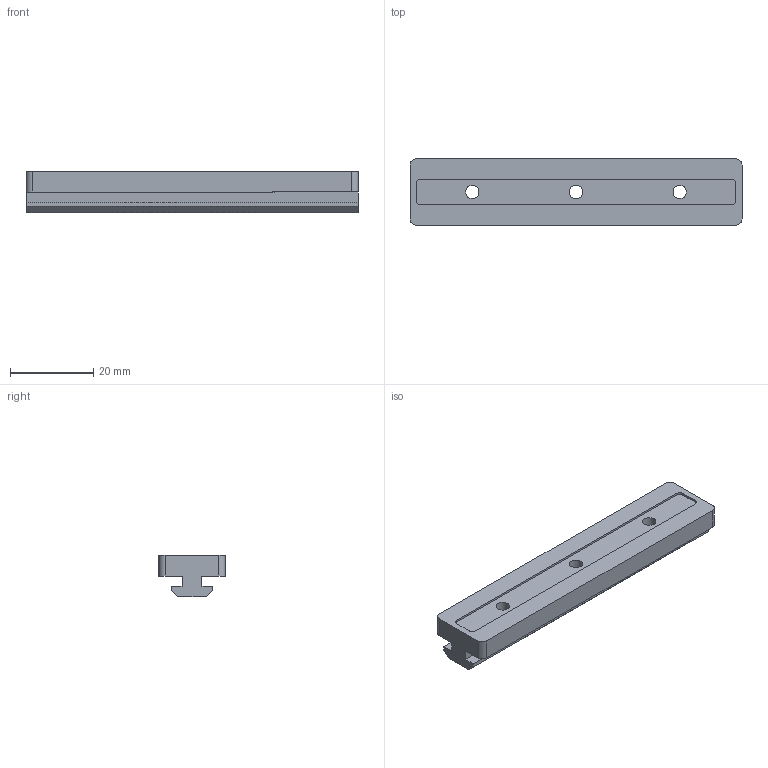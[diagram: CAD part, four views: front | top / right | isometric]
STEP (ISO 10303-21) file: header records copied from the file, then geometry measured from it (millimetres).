
FILE_DESCRIPTION(/* description */ ('www.motedis.com/part/SLDF-S5I','CAx-IF Rec.Pracs.---Representation and Presentation of Product Manufacturing Information (PMI)---4.0---2014-10-13'),/* implementation_level */ '2;1');
FILE_NAME(/* name */ 'Motedis SLDF-S5I.stp',/* time_stamp */ '2026-04-01T11:48:28+02:00',/* author */ ('Motedis'),/* organization */ ('Motedis GmbH'),/* preprocessor_version */ 'ST-DEVELOPER v20.1',/* originating_system */ 'Autodesk Inventor 2026',/* authorisation */ 'Motedis GmbH');
FILE_SCHEMA (('AP242_MANAGED_MODEL_BASED_3D_ENGINEERING_MIM_LF { 1 0 10303 442 2 1 4 }'));
Length unit declared in the file: millimetre
Products named in the file (1): Motedis SLDF-S5I
Bounding box: 80 x 16 x 10 mm (x, y, z)
Volume: 8400.9 mm3; surface area: 5482.5 mm2
Topology: 1 solids, 1 shells, 47 faces, 120 edges, 80 vertices
Faces by surface type: plane 29, cylinder 18
Full cylindrical faces by diameter (mm): 3.2 x3, 5.5 x3
Entity records: 1607 total; most frequent: DIRECTION 284, CARTESIAN_POINT 269, ORIENTED_EDGE 240, EDGE_CURVE 120, AXIS2_PLACEMENT_3D 100, LINE 84, VECTOR 84, VERTEX_POINT 80
